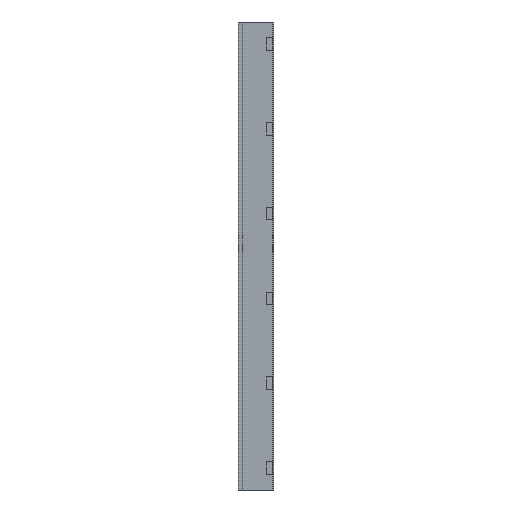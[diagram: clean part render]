
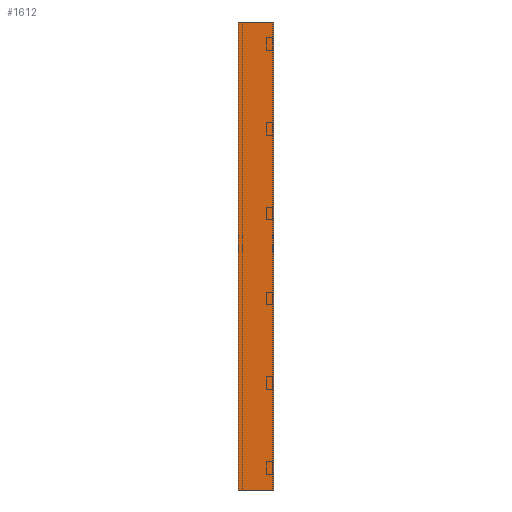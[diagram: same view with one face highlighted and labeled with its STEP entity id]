
A CAD part, left-side view. The second image highlights one B-rep face of the part: STEP entity #1612.
In plain terms, the highlighted planar face has unit normal (-1, 0, 0).
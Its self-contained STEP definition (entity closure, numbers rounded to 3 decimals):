
#10 = LINE ( 'NONE', #1604, #162 ) ;
#119 = CARTESIAN_POINT ( 'NONE',  ( 0., 112.5, -1500. ) ) ;
#162 = VECTOR ( 'NONE', #389, 1000. ) ;
#203 = VERTEX_POINT ( 'NONE', #119 ) ;
#237 = EDGE_CURVE ( 'NONE', #203, #1104, #10, .T. ) ;
#294 = DIRECTION ( 'NONE',  ( 0., 0., 1. ) ) ;
#296 = CARTESIAN_POINT ( 'NONE',  ( 0., 0., -1500. ) ) ;
#314 = PLANE ( 'NONE',  #1518 ) ;
#325 = ORIENTED_EDGE ( 'NONE', *, *, #237, .F. ) ;
#339 = LINE ( 'NONE', #1355, #436 ) ;
#349 = VECTOR ( 'NONE', #1670, 1000. ) ;
#383 = VERTEX_POINT ( 'NONE', #296 ) ;
#389 = DIRECTION ( 'NONE',  ( 0., 0., 1. ) ) ;
#436 = VECTOR ( 'NONE', #595, 1000. ) ;
#444 = DIRECTION ( 'NONE',  ( -1., 0., 0. ) ) ;
#450 = FACE_OUTER_BOUND ( 'NONE', #1557, .T. ) ;
#543 = CARTESIAN_POINT ( 'NONE',  ( 0., 112.5, 0. ) ) ;
#554 = CARTESIAN_POINT ( 'NONE',  ( 0., 0., -1500. ) ) ;
#561 = EDGE_CURVE ( 'NONE', #1104, #1243, #1543, .T. ) ;
#578 = DIRECTION ( 'NONE',  ( 0., 0., 1. ) ) ;
#595 = DIRECTION ( 'NONE',  ( 0., -1., 0. ) ) ;
#659 = ORIENTED_EDGE ( 'NONE', *, *, #849, .T. ) ;
#831 = CARTESIAN_POINT ( 'NONE',  ( 0., 0., 0. ) ) ;
#849 = EDGE_CURVE ( 'NONE', #383, #1243, #1210, .T. ) ;
#892 = CARTESIAN_POINT ( 'NONE',  ( 0., 0., 0. ) ) ;
#1075 = ORIENTED_EDGE ( 'NONE', *, *, #1247, .T. ) ;
#1104 = VERTEX_POINT ( 'NONE', #543 ) ;
#1121 = VECTOR ( 'NONE', #294, 1000. ) ;
#1210 = LINE ( 'NONE', #554, #1121 ) ;
#1243 = VERTEX_POINT ( 'NONE', #831 ) ;
#1247 = EDGE_CURVE ( 'NONE', #203, #383, #339, .T. ) ;
#1355 = CARTESIAN_POINT ( 'NONE',  ( 0., 0., -1500. ) ) ;
#1518 = AXIS2_PLACEMENT_3D ( 'NONE', #1639, #444, #578 ) ;
#1543 = LINE ( 'NONE', #892, #349 ) ;
#1557 = EDGE_LOOP ( 'NONE', ( #1693, #325, #1075, #659 ) ) ;
#1604 = CARTESIAN_POINT ( 'NONE',  ( 0., 112.5, -1500. ) ) ;
#1612 = ADVANCED_FACE ( 'NONE', ( #450 ), #314, .T. ) ;
#1639 = CARTESIAN_POINT ( 'NONE',  ( 0., 0., -1500. ) ) ;
#1670 = DIRECTION ( 'NONE',  ( 0., -1., 0. ) ) ;
#1693 = ORIENTED_EDGE ( 'NONE', *, *, #561, .F. ) ;
